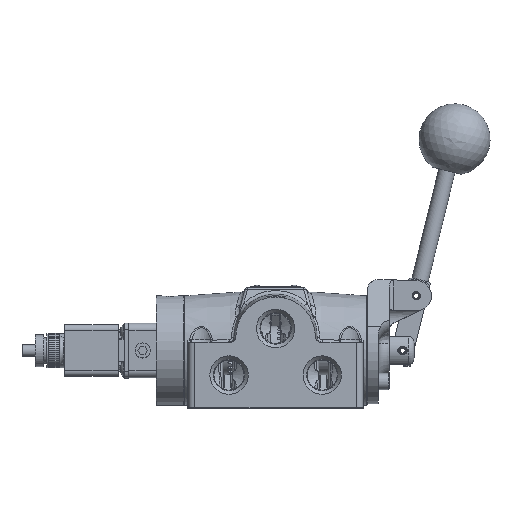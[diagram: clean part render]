
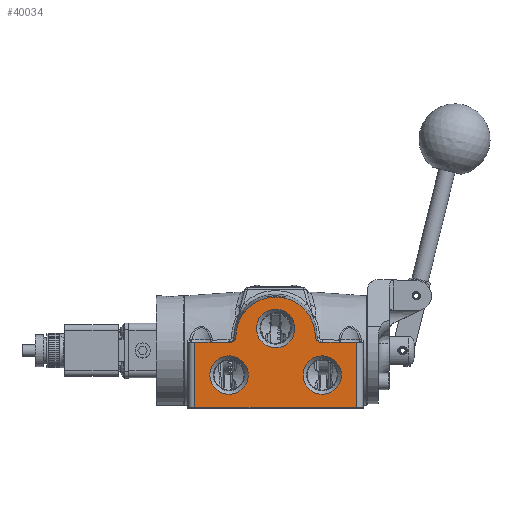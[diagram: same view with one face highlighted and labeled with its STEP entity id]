
A CAD part, top view. The second image highlights one B-rep face of the part: STEP entity #40034.
In plain terms, the highlighted planar face has unit normal (0, 0, 1).
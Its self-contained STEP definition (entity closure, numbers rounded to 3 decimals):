
#645=ELLIPSE('',#43257,0.319,0.318);
#646=ELLIPSE('',#43259,0.319,0.318);
#2139=FACE_BOUND('',#6804,.T.);
#2140=FACE_BOUND('',#6805,.T.);
#2141=FACE_BOUND('',#6806,.T.);
#2873=PLANE('',#43256);
#4329=FACE_OUTER_BOUND('',#6803,.T.);
#6803=EDGE_LOOP('',(#28526,#28527,#28528,#28529,#28530,#28531,#28532,#28533));
#6804=EDGE_LOOP('',(#28534));
#6805=EDGE_LOOP('',(#28535));
#6806=EDGE_LOOP('',(#28536));
#9091=LINE('',#65145,#11523);
#9125=LINE('',#66726,#11557);
#9126=LINE('',#66730,#11558);
#9127=LINE('',#66732,#11559);
#9128=LINE('',#66739,#11560);
#11523=VECTOR('',#49164,1.);
#11557=VECTOR('',#49416,1.);
#11558=VECTOR('',#49421,1.);
#11559=VECTOR('',#49422,1.);
#11560=VECTOR('',#49429,1.);
#14004=CIRCLE('',#42874,1.111);
#14033=CIRCLE('',#42957,1.111);
#14040=CIRCLE('',#42972,1.111);
#14194=CIRCLE('',#43258,2.302);
#16235=VERTEX_POINT('',#62874);
#16366=VERTEX_POINT('',#63976);
#16389=VERTEX_POINT('',#64143);
#16540=VERTEX_POINT('',#65141);
#16542=VERTEX_POINT('',#65144);
#16635=VERTEX_POINT('',#66725);
#16636=VERTEX_POINT('',#66729);
#16637=VERTEX_POINT('',#66731);
#16638=VERTEX_POINT('',#66733);
#16639=VERTEX_POINT('',#66735);
#16640=VERTEX_POINT('',#66737);
#20397=EDGE_CURVE('',#16235,#16235,#14004,.T.);
#20569=EDGE_CURVE('',#16366,#16366,#14033,.T.);
#20597=EDGE_CURVE('',#16389,#16389,#14040,.T.);
#20826=EDGE_CURVE('',#16542,#16540,#9091,.T.);
#20978=EDGE_CURVE('',#16542,#16635,#9125,.T.);
#20980=EDGE_CURVE('',#16636,#16540,#9126,.T.);
#20981=EDGE_CURVE('',#16636,#16637,#9127,.T.);
#20982=EDGE_CURVE('',#16638,#16637,#645,.T.);
#20983=EDGE_CURVE('',#16639,#16638,#14194,.T.);
#20984=EDGE_CURVE('',#16640,#16639,#646,.T.);
#20985=EDGE_CURVE('',#16640,#16635,#9128,.T.);
#28526=ORIENTED_EDGE('',*,*,#20826,.T.);
#28527=ORIENTED_EDGE('',*,*,#20980,.F.);
#28528=ORIENTED_EDGE('',*,*,#20981,.T.);
#28529=ORIENTED_EDGE('',*,*,#20982,.F.);
#28530=ORIENTED_EDGE('',*,*,#20983,.F.);
#28531=ORIENTED_EDGE('',*,*,#20984,.F.);
#28532=ORIENTED_EDGE('',*,*,#20985,.T.);
#28533=ORIENTED_EDGE('',*,*,#20978,.F.);
#28534=ORIENTED_EDGE('',*,*,#20397,.T.);
#28535=ORIENTED_EDGE('',*,*,#20569,.T.);
#28536=ORIENTED_EDGE('',*,*,#20597,.T.);
#40034=ADVANCED_FACE('',(#4329,#2139,#2140,#2141),#2873,.T.);
#42874=AXIS2_PLACEMENT_3D('',#62875,#48494,#48495);
#42957=AXIS2_PLACEMENT_3D('',#63977,#48705,#48706);
#42972=AXIS2_PLACEMENT_3D('',#64144,#48742,#48743);
#43256=AXIS2_PLACEMENT_3D('',#66728,#49419,#49420);
#43257=AXIS2_PLACEMENT_3D('',#66734,#49423,#49424);
#43258=AXIS2_PLACEMENT_3D('',#66736,#49425,#49426);
#43259=AXIS2_PLACEMENT_3D('',#66738,#49427,#49428);
#48494=DIRECTION('center_axis',(0.,0.,-1.));
#48495=DIRECTION('ref_axis',(1.,0.,0.));
#48705=DIRECTION('center_axis',(0.,0.,-1.));
#48706=DIRECTION('ref_axis',(1.,0.,0.));
#48742=DIRECTION('center_axis',(0.,0.,-1.));
#48743=DIRECTION('ref_axis',(1.,0.,0.));
#49164=DIRECTION('',(1.,0.,0.));
#49416=DIRECTION('',(0.,1.,0.));
#49419=DIRECTION('center_axis',(0.,0.,1.));
#49420=DIRECTION('ref_axis',(1.,0.,0.));
#49421=DIRECTION('',(0.,-1.,0.));
#49422=DIRECTION('',(-1.,0.,0.));
#49423=DIRECTION('center_axis',(0.,0.,1.));
#49424=DIRECTION('ref_axis',(-1.,0.,0.));
#49425=DIRECTION('center_axis',(0.,0.,-1.));
#49426=DIRECTION('ref_axis',(-1.,0.,0.));
#49427=DIRECTION('center_axis',(0.,0.,1.));
#49428=DIRECTION('ref_axis',(1.,0.,0.));
#49429=DIRECTION('',(-1.,0.,0.));
#62874=CARTESIAN_POINT('',(-1.111,1.271,4.445));
#62875=CARTESIAN_POINT('Origin',(0.,1.271,4.445));
#63976=CARTESIAN_POINT('',(-3.81,-1.429,4.445));
#63977=CARTESIAN_POINT('Origin',(-2.699,-1.429,4.445));
#64143=CARTESIAN_POINT('',(1.588,-1.429,4.445));
#64144=CARTESIAN_POINT('Origin',(2.699,-1.429,4.445));
#65141=CARTESIAN_POINT('',(4.683,-3.334,4.445));
#65144=CARTESIAN_POINT('',(-4.683,-3.334,4.445));
#65145=CARTESIAN_POINT('',(5.239,-3.334,4.445));
#66725=CARTESIAN_POINT('',(-4.683,0.476,4.445));
#66726=CARTESIAN_POINT('',(-4.683,-3.493,4.445));
#66728=CARTESIAN_POINT('Origin',(5.08,-3.493,4.445));
#66729=CARTESIAN_POINT('',(4.683,0.476,4.445));
#66730=CARTESIAN_POINT('',(4.683,-3.493,4.445));
#66731=CARTESIAN_POINT('',(2.621,0.476,4.445));
#66732=CARTESIAN_POINT('',(-5.08,0.476,4.445));
#66733=CARTESIAN_POINT('',(2.302,0.794,4.445));
#66734=CARTESIAN_POINT('Origin',(2.621,0.794,4.445));
#66735=CARTESIAN_POINT('',(-2.302,0.794,4.445));
#66736=CARTESIAN_POINT('Origin',(0.,0.794,4.445));
#66737=CARTESIAN_POINT('',(-2.621,0.476,4.445));
#66738=CARTESIAN_POINT('Origin',(-2.621,0.794,4.445));
#66739=CARTESIAN_POINT('',(-5.08,0.476,4.445));
